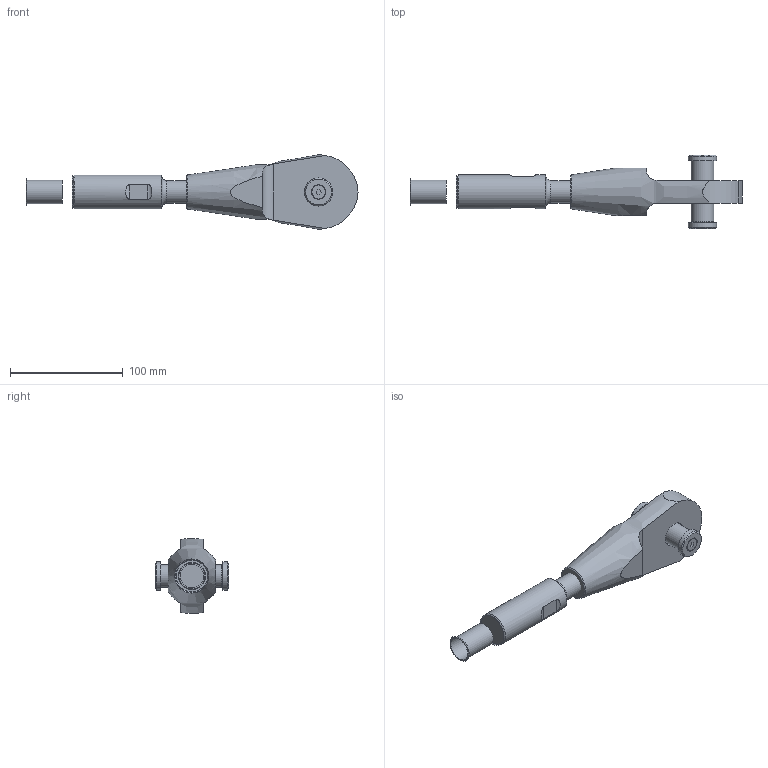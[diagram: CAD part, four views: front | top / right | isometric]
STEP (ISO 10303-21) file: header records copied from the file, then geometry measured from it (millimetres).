
FILE_DESCRIPTION(/* description */ (''),/* implementation_level */ '2;1');
FILE_NAME(/* name */ 'C:\Vault_WS\Designs\SB\01-PX\Verzinkt\ZSS\520 - Zusambau-OES-ADA\520-020-OES-ADA.stp',/* time_stamp */ '2020-10-07T15:33:43+02:00',/* author */ ('schwarz'),/* organization */ (''),/* preprocessor_version */ 'ST-DEVELOPER v18.1',/* originating_system */ 'Autodesk Inventor 2020',/* authorisation */ '');
FILE_SCHEMA (('AUTOMOTIVE_DESIGN { 1 0 10303 214 3 1 1 }'));
Length unit declared in the file: millimetre
Products named in the file (1): 520-020-OES-ADA-Kunde
Bounding box: 294.5 x 65.22 x 66.02 mm (x, y, z)
Volume: 283783.5 mm3; surface area: 49880 mm2
Topology: 6 solids, 6 shells, 63 faces, 151 edges, 105 vertices
Faces by surface type: plane 28, cylinder 20, cone 12, torus 3
Full cylindrical faces by diameter (mm): 4.917 x1, 6 x1, 6.8 x1, 12 x1, 20 x2, 21 x1, 22 x1, 25 x2, 30 x1
Entity records: 2145 total; most frequent: CARTESIAN_POINT 509, DIRECTION 325, ORIENTED_EDGE 300, EDGE_CURVE 150, AXIS2_PLACEMENT_3D 134, VERTEX_POINT 105, EDGE_LOOP 73, CIRCLE 70
